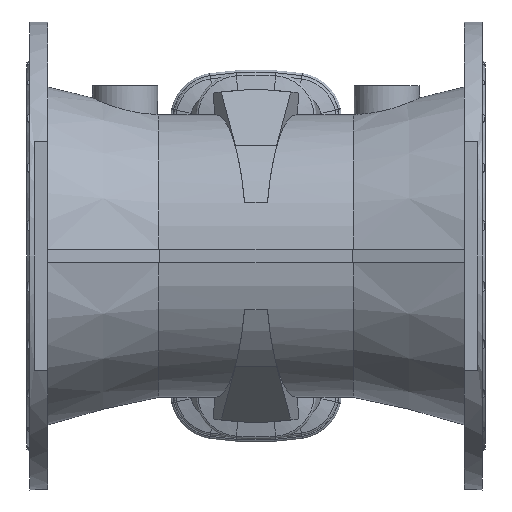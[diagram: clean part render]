
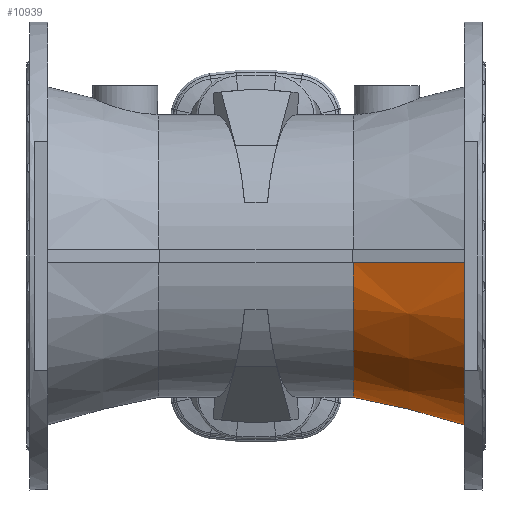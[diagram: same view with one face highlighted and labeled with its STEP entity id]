
A CAD part, front view. The second image highlights one B-rep face of the part: STEP entity #10939.
In plain terms, the highlighted conical face has half-angle 14 degrees and reference radius 216 mm.
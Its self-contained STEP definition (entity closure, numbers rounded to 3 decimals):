
#1739 = ORIENTED_EDGE ( 'NONE', *, *, #10813, .F. ) ;
#1760 = ORIENTED_EDGE ( 'NONE', *, *, #10803, .T. ) ;
#2816 = ORIENTED_EDGE ( 'NONE', *, *, #10798, .F. ) ;
#2874 = ORIENTED_EDGE ( 'NONE', *, *, #10797, .T. ) ;
#4240 = VERTEX_POINT ( 'NONE', #14315 ) ;
#4273 = VERTEX_POINT ( 'NONE', #14348 ) ;
#4318 = VERTEX_POINT ( 'NONE', #14393 ) ;
#4350 = VERTEX_POINT ( 'NONE', #14425 ) ;
#4527 = EDGE_LOOP ( 'NONE', ( #1739, #1760, #2874, #2816 ) ) ;
#5021 = CIRCLE ( 'NONE', #15202, 258.386 ) ;
#5056 = CIRCLE ( 'NONE', #15207, 216. ) ;
#5407 = FACE_OUTER_BOUND ( 'NONE', #4527, .T. ) ;
#5414 = CONICAL_SURFACE ( 'NONE', #15316, 216., 0.244 ) ;
#6567 = CARTESIAN_POINT ( 'NONE',  ( 205.166, -229.912, -10. ) ) ;
#6568 = CARTESIAN_POINT ( 'NONE',  ( 148.5, -215.768, -10. ) ) ;
#6570 = CARTESIAN_POINT ( 'NONE',  ( 318.5, 0., 0. ) ) ;
#6571 = DIRECTION ( 'NONE',  ( -1., 0., 0. ) ) ;
#6572 = DIRECTION ( 'NONE',  ( 0., 0., 1. ) ) ;
#6573 = CARTESIAN_POINT ( 'NONE',  ( 261.833, -244.053, -10. ) ) ;
#6574 = CARTESIAN_POINT ( 'NONE',  ( 318.5, -258.192, -10. ) ) ;
#6582 = CARTESIAN_POINT ( 'NONE',  ( 148.5, 215.887, -7. ) ) ;
#6583 = CARTESIAN_POINT ( 'NONE',  ( 205.166, 230.022, -7. ) ) ;
#6588 = CARTESIAN_POINT ( 'NONE',  ( 261.833, 244.157, -7. ) ) ;
#6589 = CARTESIAN_POINT ( 'NONE',  ( 318.5, 258.291, -7. ) ) ;
#6622 = CARTESIAN_POINT ( 'NONE',  ( 148.5, 0., 0. ) ) ;
#6623 = DIRECTION ( 'NONE',  ( -1., 0., 0. ) ) ;
#6624 = DIRECTION ( 'NONE',  ( 0., 0., 1. ) ) ;
#7854 = DIRECTION ( 'NONE',  ( 0., 0., -1. ) ) ;
#7857 = DIRECTION ( 'NONE',  ( 1., 0., 0. ) ) ;
#7858 = CARTESIAN_POINT ( 'NONE',  ( 148.5, 0., 0. ) ) ;
#10797 = EDGE_CURVE ( 'NONE', #4273, #4240, #5021, .T. ) ;
#10798 = EDGE_CURVE ( 'NONE', #4350, #4240, #11552, .T. ) ;
#10803 = EDGE_CURVE ( 'NONE', #4318, #4273, #11554, .T. ) ;
#10813 = EDGE_CURVE ( 'NONE', #4318, #4350, #5056, .T. ) ;
#10939 = ADVANCED_FACE ( 'NONE', ( #5407 ), #5414, .T. ) ;
#11552 = B_SPLINE_CURVE_WITH_KNOTS ( 'NONE', 3,
 ( #6568, #6567, #6573, #6574 ),
 .UNSPECIFIED., .F., .F.,
 ( 4, 4 ),
 ( 0.321, 0.496 ),
 .UNSPECIFIED. ) ;
#11554 = B_SPLINE_CURVE_WITH_KNOTS ( 'NONE', 3,
 ( #6582, #6583, #6588, #6589 ),
 .UNSPECIFIED., .F., .F.,
 ( 4, 4 ),
 ( 0.332, 0.507 ),
 .UNSPECIFIED. ) ;
#14315 = CARTESIAN_POINT ( 'NONE',  ( 318.5, -258.192, -10. ) ) ;
#14348 = CARTESIAN_POINT ( 'NONE',  ( 318.5, 258.291, -7. ) ) ;
#14393 = CARTESIAN_POINT ( 'NONE',  ( 148.5, 215.887, -7. ) ) ;
#14425 = CARTESIAN_POINT ( 'NONE',  ( 148.5, -215.768, -10. ) ) ;
#15202 = AXIS2_PLACEMENT_3D ( 'NONE', #6570, #6571, #6572 ) ;
#15207 = AXIS2_PLACEMENT_3D ( 'NONE', #6622, #6623, #6624 ) ;
#15316 = AXIS2_PLACEMENT_3D ( 'NONE', #7858, #7857, #7854 ) ;
